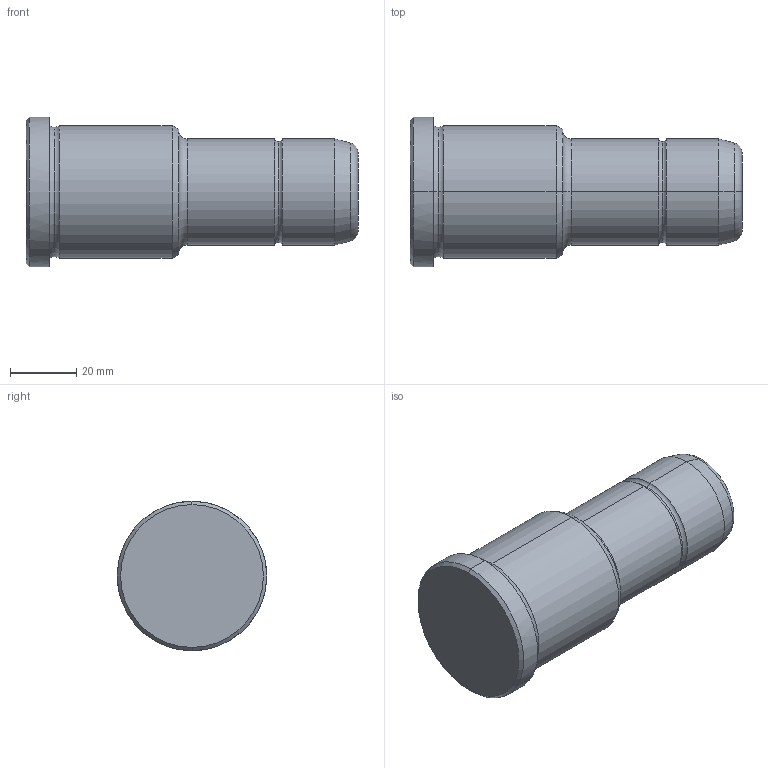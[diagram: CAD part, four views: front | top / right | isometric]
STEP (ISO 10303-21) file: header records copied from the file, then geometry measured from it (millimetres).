
FILE_DESCRIPTION(('CATIA V5 STEP Exchange'),'2;1');
FILE_NAME('C:\Users\Utente\Desktop\IO LAVORO\3D X SITO CF\X SITO\PLASTICA\351\351-32X46X100.stp','2021-09-07T13:02:38+00:00',('none'),('none'),'CATIA Version 5 Release 20 GA (IN-10)','CATIA V5 STEP AP203','none');
FILE_SCHEMA(('CONFIG_CONTROL_DESIGN'));
Length unit declared in the file: millimetre
Products named in the file (1): 351-32X46X100
Bounding box: 100 x 45 x 45 mm (x, y, z)
Volume: 102507.9 mm3; surface area: 14016.9 mm2
Topology: 1 solids, 1 shells, 30 faces, 86 edges, 60 vertices
Faces by surface type: torus 12, cylinder 8, cone 6, plane 4
Entity records: 1112 total; most frequent: CARTESIAN_POINT 289, ORIENTED_EDGE 172, DIRECTION 138, AXIS2_PLACEMENT_3D 95, EDGE_CURVE 86, CIRCLE 64, VERTEX_POINT 60, EDGE_LOOP 32
